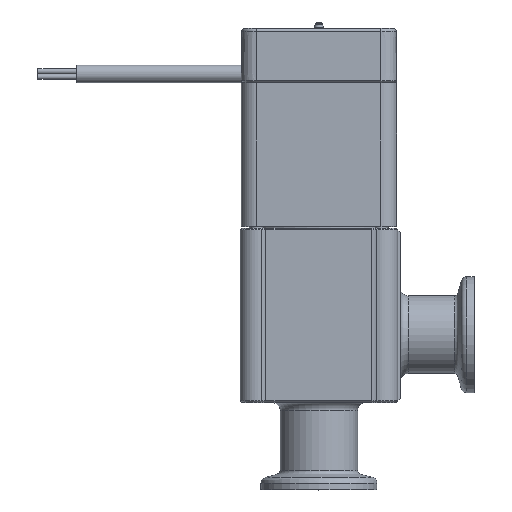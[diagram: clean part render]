
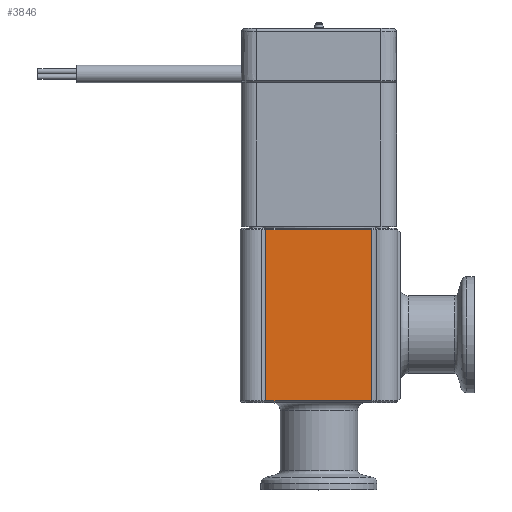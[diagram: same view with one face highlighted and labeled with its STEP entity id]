
A CAD part, top view. The second image highlights one B-rep face of the part: STEP entity #3846.
In plain terms, the highlighted planar face has unit normal (0, 0, 1).
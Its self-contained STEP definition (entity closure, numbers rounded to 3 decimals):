
#1952=FACE_OUTER_BOUND('',#5191,.T.);
#2302=LINE('',#14449,#2939);
#2303=LINE('',#14452,#2940);
#2304=LINE('',#14454,#2941);
#2305=LINE('',#14456,#2942);
#2939=VECTOR('',#11641,1.);
#2940=VECTOR('',#11642,1.);
#2941=VECTOR('',#11643,1.);
#2942=VECTOR('',#11644,1.);
#3846=ADVANCED_FACE('98-0-65',(#1952),#4271,.T.);
#4271=PLANE('',#10388);
#5191=EDGE_LOOP('',(#6081,#6082,#6083,#6084));
#6081=ORIENTED_EDGE('',*,*,#8852,.T.);
#6082=ORIENTED_EDGE('',*,*,#8853,.T.);
#6083=ORIENTED_EDGE('',*,*,#8854,.T.);
#6084=ORIENTED_EDGE('',*,*,#8855,.T.);
#8039=VERTEX_POINT('',#14450);
#8040=VERTEX_POINT('',#14451);
#8041=VERTEX_POINT('',#14453);
#8042=VERTEX_POINT('',#14455);
#8852=EDGE_CURVE('',#8039,#8040,#2302,.T.);
#8853=EDGE_CURVE('',#8040,#8041,#2303,.T.);
#8854=EDGE_CURVE('',#8041,#8042,#2304,.T.);
#8855=EDGE_CURVE('',#8042,#8039,#2305,.T.);
#10388=AXIS2_PLACEMENT_3D('',#14457,#11645,#11646);
#11641=DIRECTION('',(0.,-1.,0.));
#11642=DIRECTION('',(1.,0.,0.));
#11643=DIRECTION('',(0.,1.,0.));
#11644=DIRECTION('',(-1.,0.,0.));
#11645=DIRECTION('',(0.,0.,1.));
#11646=DIRECTION('',(1.,0.,0.));
#14449=CARTESIAN_POINT('',(-13.657,19.5,20.));
#14450=CARTESIAN_POINT('',(-13.657,64.,20.));
#14451=CARTESIAN_POINT('',(-13.657,19.9,20.));
#14452=CARTESIAN_POINT('',(13.657,19.9,20.));
#14453=CARTESIAN_POINT('',(13.657,19.9,20.));
#14454=CARTESIAN_POINT('',(13.657,64.4,20.));
#14455=CARTESIAN_POINT('',(13.657,64.,20.));
#14456=CARTESIAN_POINT('',(-13.657,64.,20.));
#14457=CARTESIAN_POINT('',(-14.422,18.5,20.));
